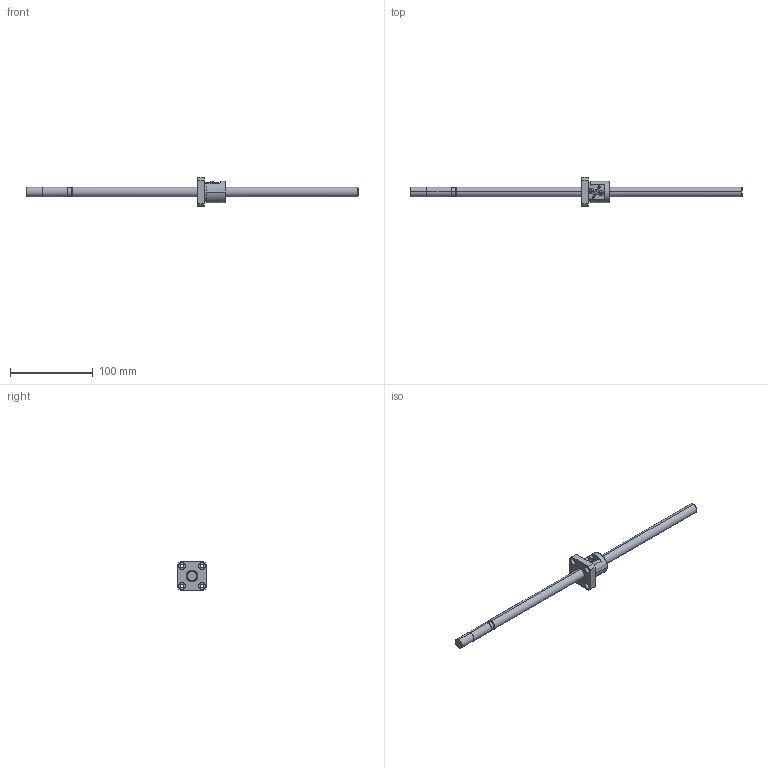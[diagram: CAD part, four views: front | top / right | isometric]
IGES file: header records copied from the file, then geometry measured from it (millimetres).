
Global section: file name: No Iges File Name specified; native system: AutoDesk Inventor R10; preprocessor: AutoDesk Inventor Iges Exporter R10; author: No Author specified; organization: No Organization specified; date: 20101224.135655; units: millimetre
Bounding box: 400 x 35 x 35 mm (x, y, z)
Surface area: 22807.2 mm2 (no closed solid volume)
Topology: 0 solids, 0 shells, 124 faces, 906 edges, 906 vertices
Faces by surface type: bspline 124
